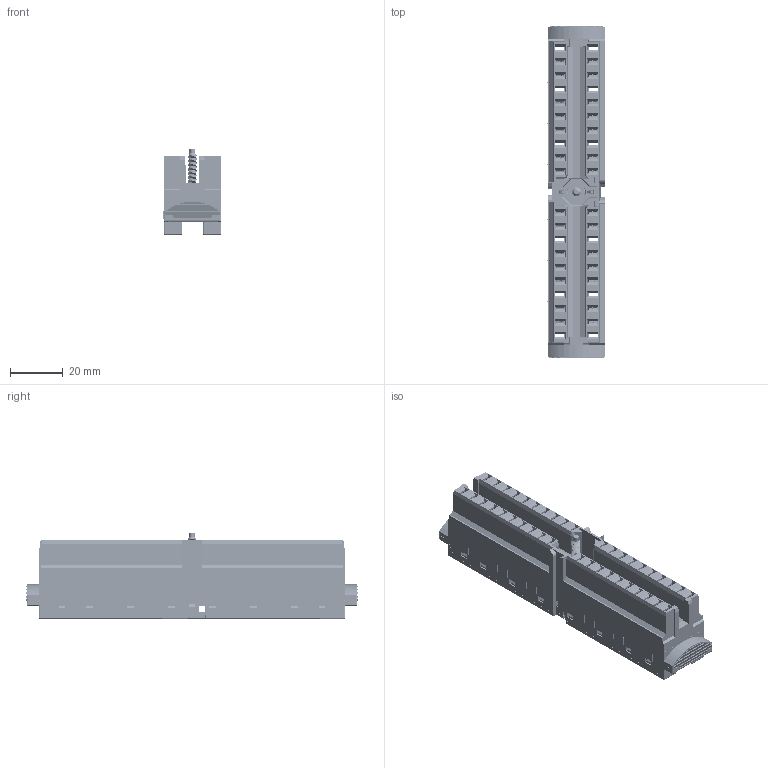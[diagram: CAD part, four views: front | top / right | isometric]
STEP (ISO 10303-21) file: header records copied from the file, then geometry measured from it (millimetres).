
FILE_DESCRIPTION((''),'2;1');
FILE_NAME('392-1AM00_DET5','2015-04-27T',('TReuther'),(''),'PRO/ENGINEER BY PARAMETRIC TECHNOLOGY CORPORATION, 2013320','PRO/ENGINEER BY PARAMETRIC TECHNOLOGY CORPORATION, 2013320','');
FILE_SCHEMA(('CONFIG_CONTROL_DESIGN'));
Products named in the file (1): 392-1AM00_DET5
Bounding box: 21.9 x 126 x 32.9 mm (x, y, z)
Volume: 33801.3 mm3; surface area: 75505.6 mm2
Topology: 1 solids, 1 shells, 19309 faces, 56689 edges, 36922 vertices
Faces by surface type: plane 14198, cylinder 3139, bspline 808, torus 624, cone 428, sphere 112
Entity records: 774675 total; most frequent: CARTESIAN_POINT 266618, ORIENTED_EDGE 113370, DIRECTION 95815, EDGE_CURVE 56685, VECTOR 44821, LINE 44821, VERTEX_POINT 36922, AXIS2_PLACEMENT_3D 25497
